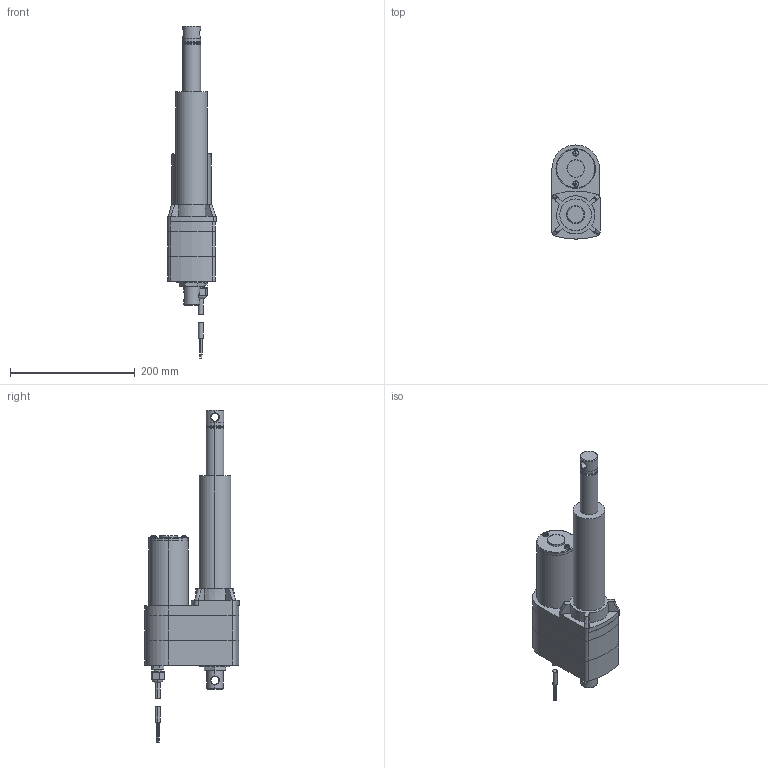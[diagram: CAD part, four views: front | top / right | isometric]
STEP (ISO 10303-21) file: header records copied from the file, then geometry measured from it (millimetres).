
FILE_DESCRIPTION (( 'STEP AP203' ), '1' );
FILE_NAME ('LA10_BALL_4_POTx.step', '2021-02-24T15:34:40', ( '' ), ( '' ), 'SwSTEP 2.0', 'SolidWorks 2017', '' );
FILE_SCHEMA (( 'CONFIG_CONTROL_DESIGN' ));
Length unit declared in the file: millimetre
Products named in the file (1): LA10_BALL_4_POTx
Bounding box: 77.22 x 151.29 x 533.35 mm (x, y, z)
Volume: 1951730.9 mm3; surface area: 198706.1 mm2
Topology: 14 solids, 14 shells, 345 faces, 740 edges, 460 vertices
Faces by surface type: plane 162, cylinder 115, cone 24, bspline 22, torus 18, sphere 4
Entity records: 11368 total; most frequent: CARTESIAN_POINT 3734, DIRECTION 1643, ORIENTED_EDGE 1480, EDGE_CURVE 740, AXIS2_PLACEMENT_3D 649, VERTEX_POINT 460, EDGE_LOOP 390, VECTOR 345
